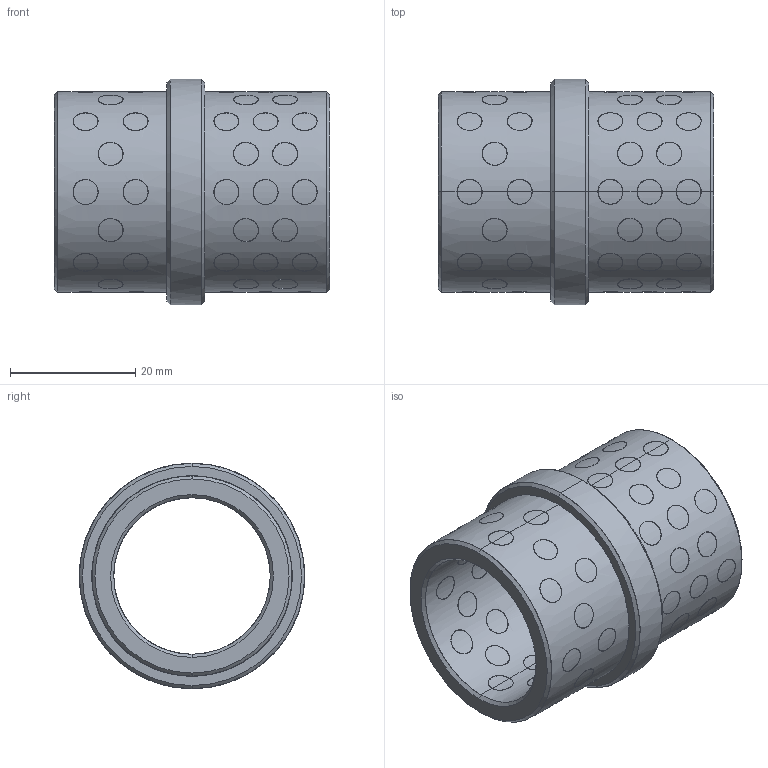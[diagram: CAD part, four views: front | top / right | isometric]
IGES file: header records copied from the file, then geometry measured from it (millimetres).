
Start section: START RECORD GO HERE.
Global section: file name: G4022526.igs; native system: DASSAULT SYSTEMES CATIA V5 R20 - www.3ds.com; preprocessor: CATIA Version 5 Release 20 ; author: r.borello; organization: CFTORINO; date: 20190624.143910; units: millimetre
Bounding box: 44 x 36 x 36 mm (x, y, z)
Surface area: 14419.1 mm2 (no closed solid volume)
Topology: 0 solids, 0 shells, 428 faces, 1872 edges, 1872 vertices
Faces by surface type: revolution 424, plane 4
